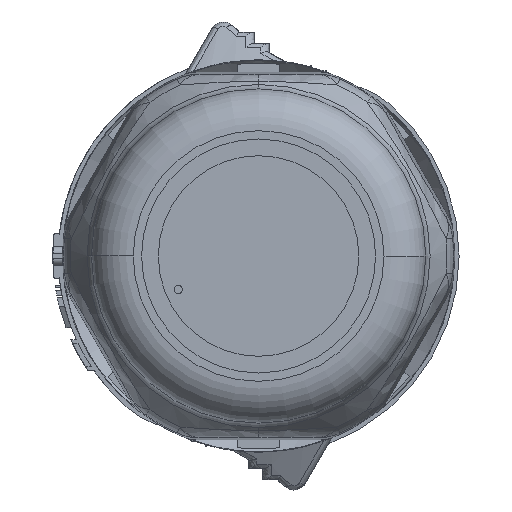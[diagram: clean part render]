
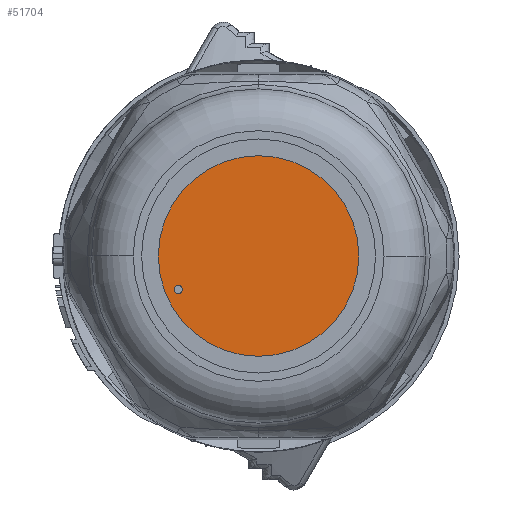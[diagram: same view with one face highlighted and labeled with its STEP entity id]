
A CAD part, left-side view. The second image highlights one B-rep face of the part: STEP entity #51704.
In plain terms, the highlighted planar face has unit normal (-1, 0, 0).
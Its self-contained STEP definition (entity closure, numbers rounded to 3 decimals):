
#16856=CARTESIAN_POINT('',(0.05,0.,0.));
#16857=DIRECTION('',(1.,0.,0.));
#16858=DIRECTION('',(0.,-1.,0.));
#16859=AXIS2_PLACEMENT_3D('',#16856,#16857,#16858);
#16861=CARTESIAN_POINT('',(0.05,0.,0.));
#16862=DIRECTION('',(1.,0.,0.));
#16863=DIRECTION('',(0.,1.,0.));
#16864=AXIS2_PLACEMENT_3D('',#16861,#16862,#16863);
#16866=CARTESIAN_POINT('',(0.05,4.8,-2.));
#16867=DIRECTION('',(-1.,0.,0.));
#16868=DIRECTION('',(0.,0.,1.));
#16869=AXIS2_PLACEMENT_3D('',#16866,#16867,#16868);
#16871=CARTESIAN_POINT('',(0.05,4.8,-2.));
#16872=DIRECTION('',(-1.,0.,0.));
#16873=DIRECTION('',(0.,0.,-1.));
#16874=AXIS2_PLACEMENT_3D('',#16871,#16872,#16873);
#25939=CARTESIAN_POINT('',(0.05,4.8,-1.75));
#25940=CARTESIAN_POINT('',(0.05,4.8,-2.25));
#25941=VERTEX_POINT('',#25939);
#25942=VERTEX_POINT('',#25940);
#28616=CARTESIAN_POINT('',(0.05,-6.5,0.));
#28617=CARTESIAN_POINT('',(0.05,6.5,0.));
#28618=VERTEX_POINT('',#28616);
#28619=VERTEX_POINT('',#28617);
#51689=CARTESIAN_POINT('',(0.05,0.,0.));
#51690=DIRECTION('',(-1.,0.,0.));
#51691=DIRECTION('',(0.,0.,1.));
#51692=AXIS2_PLACEMENT_3D('',#51689,#51690,#51691);
#51693=PLANE('',#51692);
#51694=ORIENTED_EDGE('',*,*,#51669,.T.);
#51695=ORIENTED_EDGE('',*,*,#51683,.T.);
#51696=EDGE_LOOP('',(#51694,#51695));
#51697=FACE_OUTER_BOUND('',#51696,.F.);
#51699=ORIENTED_EDGE('',*,*,#51698,.T.);
#51701=ORIENTED_EDGE('',*,*,#51700,.T.);
#51702=EDGE_LOOP('',(#51699,#51701));
#51703=FACE_BOUND('',#51702,.F.);
#51704=ADVANCED_FACE('',(#51697,#51703),#51693,.T.);
#16860=CIRCLE('',#16859,6.5);
#16865=CIRCLE('',#16864,6.5);
#16870=CIRCLE('',#16869,0.25);
#16875=CIRCLE('',#16874,0.25);
#51669=EDGE_CURVE('',#28618,#28619,#16860,.T.);
#51683=EDGE_CURVE('',#28619,#28618,#16865,.T.);
#51698=EDGE_CURVE('',#25941,#25942,#16870,.T.);
#51700=EDGE_CURVE('',#25942,#25941,#16875,.T.);
